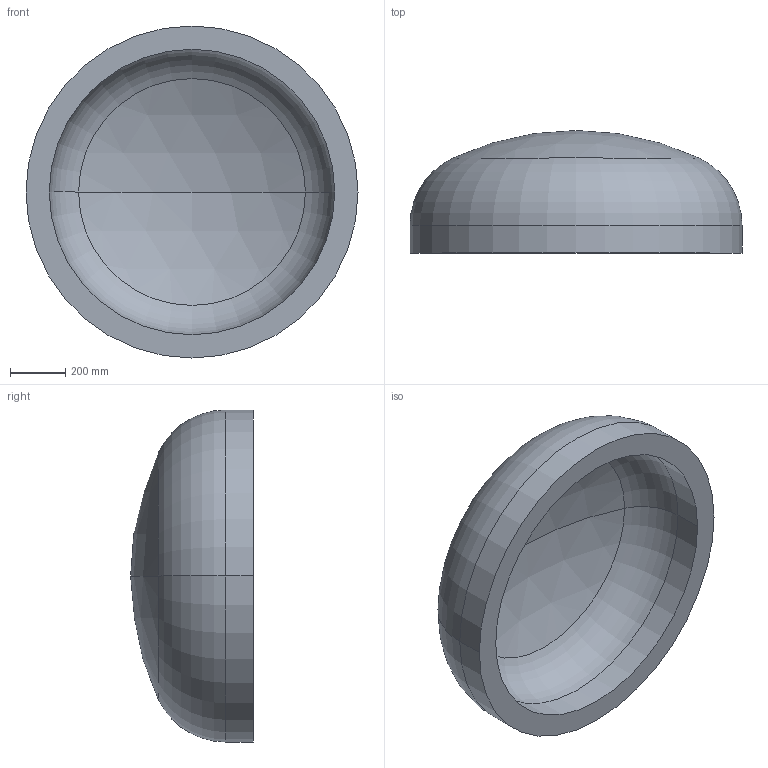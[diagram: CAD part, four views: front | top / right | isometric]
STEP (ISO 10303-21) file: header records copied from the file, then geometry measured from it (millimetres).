
FILE_DESCRIPTION (( 'STEP AP203' ), '1' );
FILE_NAME ('DIN 28013 Korbbogenform_-_Boden DIN 28013 - 1200 x 100 - I - s=84.step', '2016-07-01T09:35:38', ( '' ), ( '' ), 'SwSTEP 2.0', 'SolidWorks 2013', '' );
FILE_SCHEMA (( 'CONFIG_CONTROL_DESIGN' ));
Length unit declared in the file: millimetre
Products named in the file (1): DIN 28013 Korbbogenform_-_Boden DIN 28013 - 1200 x 100 - I - s=84
Bounding box: 1200 x 443.24 x 1200 mm (x, y, z)
Volume: 149905867.3 mm3; surface area: 3878470.1 mm2
Topology: 1 solids, 1 shells, 13 faces, 24 edges, 14 vertices
Faces by surface type: torus 4, cylinder 4, sphere 4, plane 1
Entity records: 407 total; most frequent: DIRECTION 72, CARTESIAN_POINT 52, ORIENTED_EDGE 48, AXIS2_PLACEMENT_3D 34, EDGE_CURVE 24, CIRCLE 20, EDGE_LOOP 14, VERTEX_POINT 14
